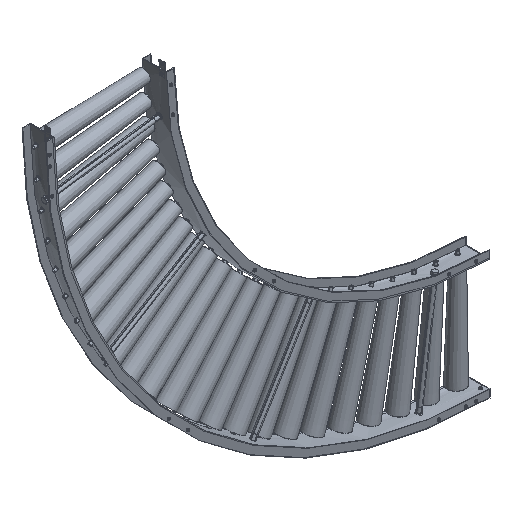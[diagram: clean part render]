
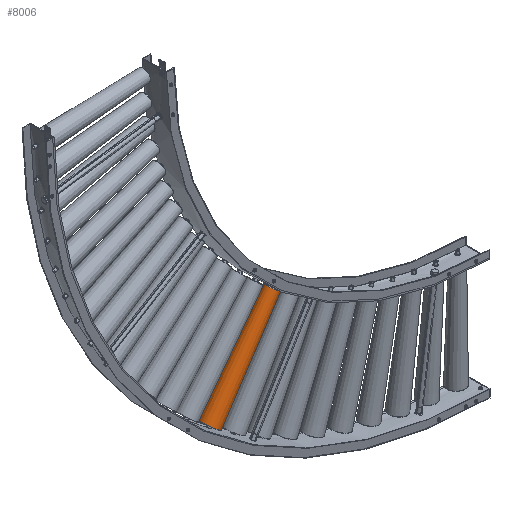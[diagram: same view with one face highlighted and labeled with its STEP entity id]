
A CAD part, isometric view. The second image highlights one B-rep face of the part: STEP entity #8006.
In plain terms, the highlighted conical face has half-angle 1.267 degrees and reference radius 32.85 mm.
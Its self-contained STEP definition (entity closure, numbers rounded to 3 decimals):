
#501 = CARTESIAN_POINT ( 'NONE',  ( -799.089, 100.102, -1175.585 ) ) ;
#596 = CARTESIAN_POINT ( 'NONE',  ( -570.51, 127.575, -848.794 ) ) ;
#2360 = LINE ( 'NONE', #8383, #22280 ) ;
#2752 = VERTEX_POINT ( 'NONE', #11569 ) ;
#7258 = LINE ( 'NONE', #10566, #29921 ) ;
#7853 = DIRECTION ( 'NONE',  ( 0.525, -0.764, -0.376 ) ) ;
#8006 = ADVANCED_FACE ( 'NONE', ( #18042 ), #28398, .T. ) ;
#8383 = CARTESIAN_POINT ( 'NONE',  ( -781.85, 75.021, -1187.95 ) ) ;
#10566 = CARTESIAN_POINT ( 'NONE',  ( -816.328, 125.183, -1163.221 ) ) ;
#10775 = CARTESIAN_POINT ( 'NONE',  ( -798.471, 100.126, -1174.771 ) ) ;
#10869 = ORIENTED_EDGE ( 'NONE', *, *, #22681, .F. ) ;
#11077 = ORIENTED_EDGE ( 'NONE', *, *, #20989, .T. ) ;
#11567 = AXIS2_PLACEMENT_3D ( 'NONE', #501, #26820, #14943 ) ;
#11569 = CARTESIAN_POINT ( 'NONE',  ( -815.698, 125.19, -1162.416 ) ) ;
#11727 = ORIENTED_EDGE ( 'NONE', *, *, #14989, .T. ) ;
#12196 = CARTESIAN_POINT ( 'NONE',  ( -545.298, 90.894, -866.877 ) ) ;
#14943 = DIRECTION ( 'NONE',  ( -0.525, 0.764, 0.376 ) ) ;
#14989 = EDGE_CURVE ( 'NONE', #16009, #35894, #31195, .T. ) ;
#15865 = CARTESIAN_POINT ( 'NONE',  ( -781.244, 75.062, -1187.127 ) ) ;
#16009 = VERTEX_POINT ( 'NONE', #12196 ) ;
#17684 = EDGE_LOOP ( 'NONE', ( #10869, #11727, #19488, #11077 ) ) ;
#18042 = FACE_OUTER_BOUND ( 'NONE', #17684, .T. ) ;
#19149 = DIRECTION ( 'NONE',  ( -0.616, -0.006, -0.788 ) ) ;
#19488 = ORIENTED_EDGE ( 'NONE', *, *, #29304, .T. ) ;
#20267 = DIRECTION ( 'NONE',  ( -0.593, -0.04, -0.804 ) ) ;
#20934 = VERTEX_POINT ( 'NONE', #15865 ) ;
#20989 = EDGE_CURVE ( 'NONE', #2752, #20934, #33751, .T. ) ;
#22280 = VECTOR ( 'NONE', #20267, 1000. ) ;
#22460 = DIRECTION ( 'NONE',  ( 0.604, 0.023, 0.796 ) ) ;
#22681 = EDGE_CURVE ( 'NONE', #16009, #20934, #2360, .T. ) ;
#22721 = CARTESIAN_POINT ( 'NONE',  ( -557.904, 109.234, -857.836 ) ) ;
#26820 = DIRECTION ( 'NONE',  ( -0.604, -0.023, -0.796 ) ) ;
#28398 = CONICAL_SURFACE ( 'NONE', #11567, 32.85, 0.022 ) ;
#29304 = EDGE_CURVE ( 'NONE', #35894, #2752, #7258, .T. ) ;
#29921 = VECTOR ( 'NONE', #19149, 1000. ) ;
#31195 = CIRCLE ( 'NONE', #35506, 24.022 ) ;
#33751 = CIRCLE ( 'NONE', #36851, 32.827 ) ;
#34613 = DIRECTION ( 'NONE',  ( 0.525, -0.764, -0.376 ) ) ;
#35506 = AXIS2_PLACEMENT_3D ( 'NONE', #22721, #37720, #34613 ) ;
#35894 = VERTEX_POINT ( 'NONE', #596 ) ;
#36851 = AXIS2_PLACEMENT_3D ( 'NONE', #10775, #22460, #7853 ) ;
#37720 = DIRECTION ( 'NONE',  ( -0.604, -0.023, -0.796 ) ) ;
